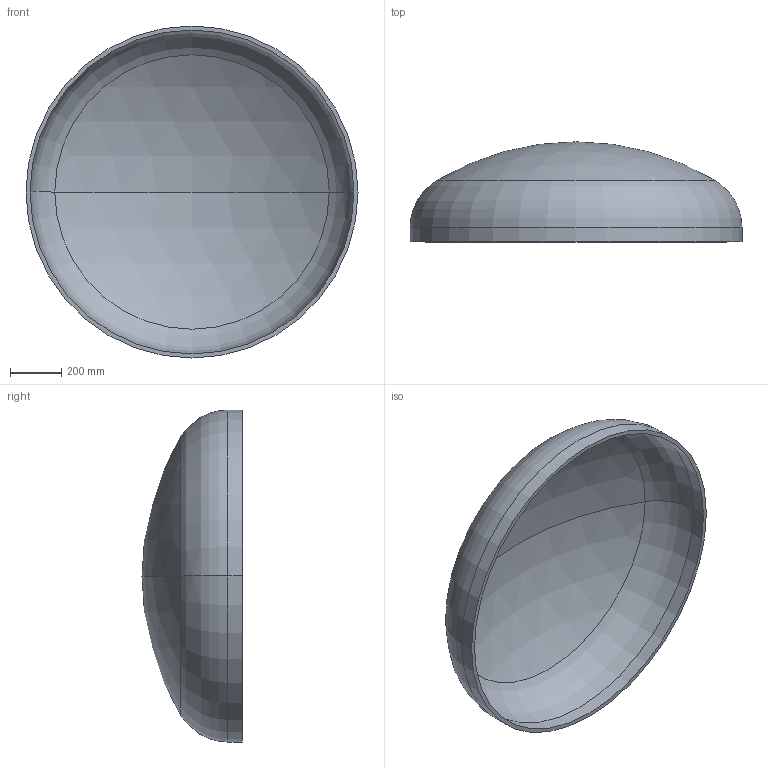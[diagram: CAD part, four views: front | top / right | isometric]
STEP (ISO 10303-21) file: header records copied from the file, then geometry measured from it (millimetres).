
FILE_DESCRIPTION (( 'STEP AP203' ), '1' );
FILE_NAME ('DIN 28013 Korbbogenform_-_Boden DIN 28013 - 1300 x 55 - I - s=16.step', '2016-07-01T09:44:16', ( '' ), ( '' ), 'SwSTEP 2.0', 'SolidWorks 2013', '' );
FILE_SCHEMA (( 'CONFIG_CONTROL_DESIGN' ));
Length unit declared in the file: millimetre
Products named in the file (1): DIN 28013 Korbbogenform_-_Boden DIN 28013 - 1300 x 55 - I - s=16
Bounding box: 1300 x 391.8 x 1300 mm (x, y, z)
Volume: 32482509.6 mm3; surface area: 4125389.3 mm2
Topology: 1 solids, 1 shells, 13 faces, 24 edges, 14 vertices
Faces by surface type: torus 4, cylinder 4, sphere 4, plane 1
Entity records: 407 total; most frequent: DIRECTION 72, CARTESIAN_POINT 52, ORIENTED_EDGE 48, AXIS2_PLACEMENT_3D 34, EDGE_CURVE 24, CIRCLE 20, EDGE_LOOP 14, VERTEX_POINT 14
